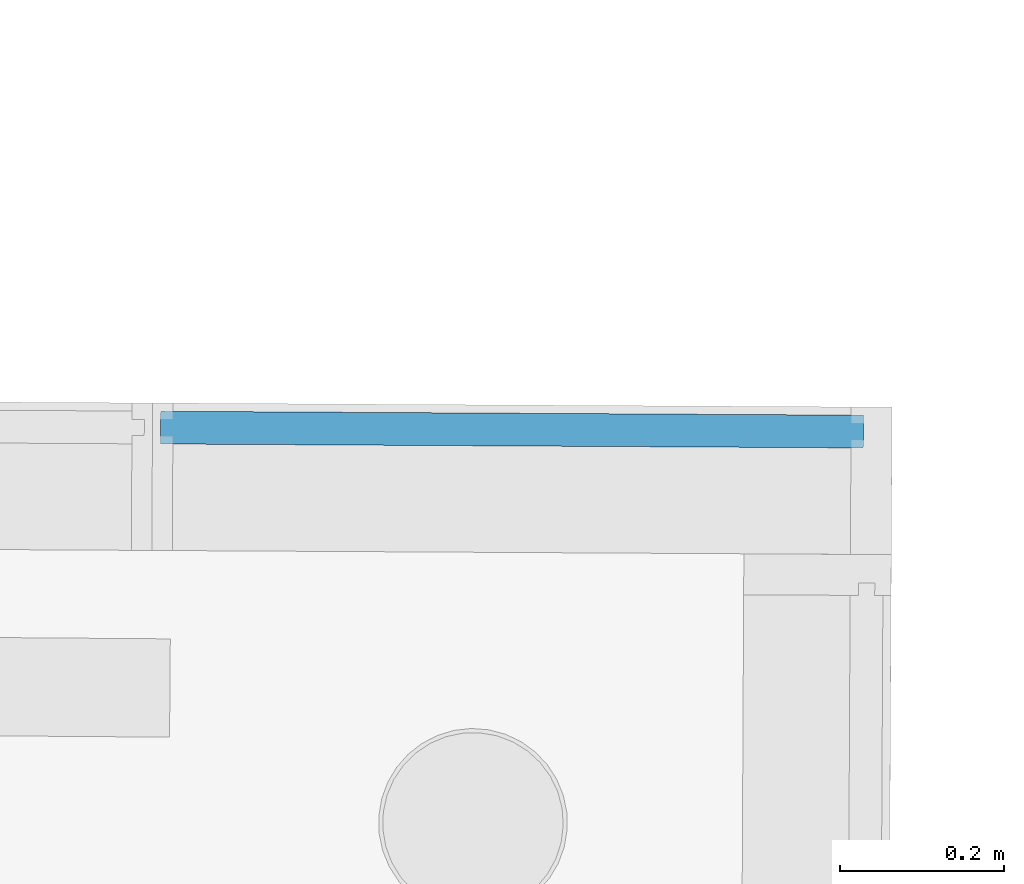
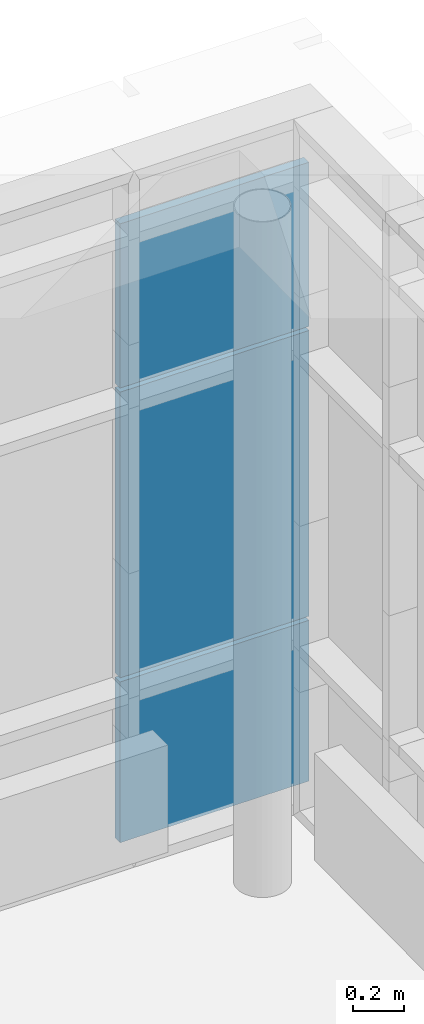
# One storey, part 146 of 196: 3 building element parts, 1 element without a shape of its own.
"""IFC2X3 building model written with IfcOpenShell, lengths in metres."""

from ifc_helpers import new_model, entity, si_unit, converted_unit, derived_unit, money_unit, direction, frame, origin_with_axes, place, context, subcontext, project, spatial, faceted_brep, material, type_object, element, aggregate, save


model = new_model("IFC2X3")

# Units and contexts
model_context = context("Model", 3, precision=1e-05, world=origin_with_axes(), true_north=direction((0.0, 1.0)))
body_context = subcontext(model_context, "Body", "Model", "MODEL_VIEW")
ifc_project = project(units=[si_unit("LENGTHUNIT", "METRE"), si_unit("AREAUNIT", "SQUARE_METRE"), si_unit("VOLUMEUNIT", "CUBIC_METRE"), converted_unit("PLANEANGLEUNIT", "DEGREE", entity("IfcPlaneAngleMeasure", 0.0174532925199), si_unit("PLANEANGLEUNIT", "RADIAN"), dimensions=[0, 0, 0, 0, 0, 0, 0]), money_unit("EUR"), converted_unit("TIMEUNIT", "Year", entity("IfcTimeMeasure", 31556926.0), si_unit("TIMEUNIT", "SECOND"), dimensions=[0, 0, 1, 0, 0, 0, 0]), si_unit("MASSUNIT", "GRAM", prefix="KILO"), si_unit("THERMODYNAMICTEMPERATUREUNIT", "DEGREE_CELSIUS"), si_unit("LUMINOUSINTENSITYUNIT", "LUMEN"), si_unit("ENERGYUNIT", "JOULE", prefix="MEGA"), derived_unit("THERMALCONDUCTANCEUNIT", [(si_unit("POWERUNIT", "WATT"), 1), (si_unit("LENGTHUNIT", "METRE"), -1), (si_unit("THERMODYNAMICTEMPERATUREUNIT", "KELVIN"), -1)]), derived_unit("SPECIFICHEATCAPACITYUNIT", [(si_unit("ENERGYUNIT", "JOULE"), 1), (si_unit("MASSUNIT", "GRAM", prefix="KILO"), -1), (si_unit("THERMODYNAMICTEMPERATUREUNIT", "KELVIN"), -1)]), derived_unit("MASSDENSITYUNIT", [(si_unit("MASSUNIT", "GRAM", prefix="KILO"), 1), (si_unit("VOLUMEUNIT", "CUBIC_METRE"), -1)])], contexts=[model_context])

# Site, building, storey
site_placement = place(None, origin_with_axes())
site = spatial("IfcSite", under=ifc_project, at=site_placement, Name="Gelände", CompositionType="ELEMENT")
building_placement = place(site_placement, origin_with_axes())
building = spatial("IfcBuilding", under=site, at=building_placement, Name="Gebäude", CompositionType="ELEMENT")
storey_placement = place(building_placement, frame((0.0, 0.0, -3.0), z_axis=(0.0, 0.0, 1.0), x_axis=(1.0, 0.0, 0.0)))
storey = spatial("IfcBuildingStorey", under=building, at=storey_placement, Name="KELLERGESCHOSS", CompositionType="ELEMENT", Elevation=-3.0)

# Proxy, building element parts
building_element_proxy_type = type_object("IfcBuildingElementProxyType", Name="Fassadentyp", PredefinedType="NOTDEFINED")
proxy_placement = place(storey_placement, frame((8.78139895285, 45.8579301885, 0.610000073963), z_axis=(0.0, 0.0, 1.0), x_axis=(1.0, 0.0, 0.0)))
proxy = element("IfcBuildingElementProxy", 1, at=proxy_placement, inside=storey, type_object=building_element_proxy_type, Name="Fassade-002")
ifc_material = material(Name="45_Glas, Normalglas")
building_element_part_1_placement = place(proxy_placement, origin_with_axes())
building_element_part_1 = element("IfcBuildingElementPart", 2, at=building_element_part_1_placement, material=ifc_material, Name="45_Glas, Normalglas", context=body_context, shape_type="Brep", body=[
    faceted_brep([(-0.441501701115, -0.0175135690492, 2.20362977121), (0.416276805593, -0.0223449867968, 2.20362977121), (0.416502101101, 0.0176543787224, 2.20362977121), (-0.441276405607, 0.0224857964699, 2.20362977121), (-0.441501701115, -0.0175135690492, 1.41999993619), (-0.441501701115, -0.0175135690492, 0.828683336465), (0.416276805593, -0.0223449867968, 0.828683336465), (0.416276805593, -0.0223449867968, 1.41999993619), (0.416502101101, 0.0176543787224, 1.41999993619), (0.416502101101, 0.0176543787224, 0.828683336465), (-0.441276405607, 0.0224857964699, 0.828683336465), (-0.441276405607, 0.0224857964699, 1.41999993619)], [[[0, 1, 2, 3]], [[0, 4, 5, 6, 7, 1]], [[1, 7, 8, 2]], [[3, 2, 8, 9, 10, 11]], [[4, 0, 3, 11]], [[5, 4, 11, 10]], [[6, 5, 10, 9]], [[7, 6, 9, 8]]]),
])
building_element_part_2_placement = place(proxy_placement, origin_with_axes())
building_element_part_2 = element("IfcBuildingElementPart", 3, at=building_element_part_2_placement, material=ifc_material, Name="45_Glas, Normalglas", context=body_context, shape_type="Brep", body=[
    faceted_brep([(-0.441501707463, -0.0175135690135, 3.01359915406), (0.4162768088, -0.0223449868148, 3.01359915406), (0.416502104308, 0.0176543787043, 3.01359915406), (-0.441276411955, 0.0224857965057, 3.01359915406), (-0.441501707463, -0.0175135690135, 2.51999992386), (-0.441501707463, -0.0175135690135, 2.22362976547), (0.4162768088, -0.0223449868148, 2.22362976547), (0.4162768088, -0.0223449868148, 2.51999992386), (0.416502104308, 0.0176543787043, 2.51999992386), (0.416502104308, 0.0176543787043, 2.22362976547), (-0.441276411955, 0.0224857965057, 2.22362976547), (-0.441276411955, 0.0224857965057, 2.51999992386)], [[[0, 1, 2, 3]], [[0, 4, 5, 6, 7, 1]], [[1, 7, 8, 2]], [[3, 2, 8, 9, 10, 11]], [[4, 0, 3, 11]], [[5, 4, 11, 10]], [[6, 5, 10, 9]], [[7, 6, 9, 8]]]),
])
building_element_part_3_placement = place(proxy_placement, origin_with_axes())
building_element_part_3 = element("IfcBuildingElementPart", 4, at=building_element_part_3_placement, material=ifc_material, Name="45_Glas, Normalglas", context=body_context, shape_type="Brep", body=[
    faceted_brep([(-0.441501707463, -0.0175135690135, 0.808683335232), (0.4162768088, -0.0223449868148, 0.808683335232), (0.416502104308, 0.0176543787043, 0.808683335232), (-0.441276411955, 0.0224857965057, 0.808683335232), (-0.441501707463, -0.0175135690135, 0.619999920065), (-0.441501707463, -0.0175135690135, 0.0349999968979), (0.4162768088, -0.0223449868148, 0.0349999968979), (0.4162768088, -0.0223449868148, 0.619999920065), (0.416502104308, 0.0176543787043, 0.619999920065), (0.416502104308, 0.0176543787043, 0.0349999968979), (-0.441276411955, 0.0224857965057, 0.0349999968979), (-0.441276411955, 0.0224857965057, 0.619999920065)], [[[0, 1, 2, 3]], [[0, 4, 5, 6, 7, 1]], [[1, 7, 8, 2]], [[3, 2, 8, 9, 10, 11]], [[4, 0, 3, 11]], [[5, 4, 11, 10]], [[6, 5, 10, 9]], [[7, 6, 9, 8]]]),
])
aggregate(proxy, [building_element_part_1, building_element_part_2, building_element_part_3])

save(model, "model.ifc")
